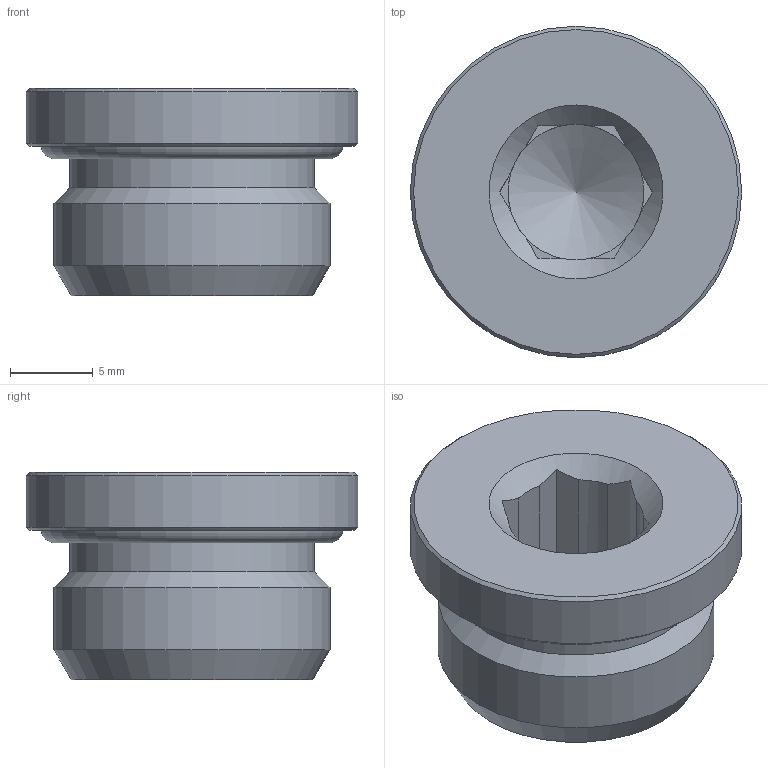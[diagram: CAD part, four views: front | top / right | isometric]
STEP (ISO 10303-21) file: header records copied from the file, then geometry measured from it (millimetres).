
FILE_DESCRIPTION(/* description */ (''),/* implementation_level */ '2;1');
FILE_NAME(/* name */ '30154_107OR_G38_21.09.16',/* time_stamp */ '2016-09-21T10:58:56+02:00',/* author */ (''),/* organization */ (''),/* preprocessor_version */ 'ST-DEVELOPER v16.5',/* originating_system */ 'HiCAD 2016 2101.0 Build 254',/* authorisation */ '');
FILE_SCHEMA (('AUTOMOTIVE_DESIGN { 1 0 10303 214 1 1 1 1 }'));
Length unit declared in the file: millimetre
Products named in the file (3): Root; 30154; OR 14X1.78
Assembly tree (2 placements, depth 2):
  Root
    30154
    OR 14X1.78
Bounding box: 20 x 20 x 12.5 mm (x, y, z)
Volume: 2350.5 mm3; surface area: 1902.5 mm2
Topology: 2 solids, 2 shells, 36 faces, 91 edges, 59 vertices
Faces by surface type: plane 22, cone 7, cylinder 4, torus 3
Full cylindrical faces by diameter (mm): 8.2 x1, 14.75 x1, 16.662 x1, 20 x1
Entity records: 1706 total; most frequent: DIRECTION 188, CARTESIAN_POINT 161, PRESENTATION_STYLE_ASSIGNMENT 140, COLOUR_RGB 140, DRAUGHTING_PRE_DEFINED_CURVE_FONT 138, CURVE_STYLE 138, OVER_RIDING_STYLED_ITEM 138, ORIENTED_EDGE 138
